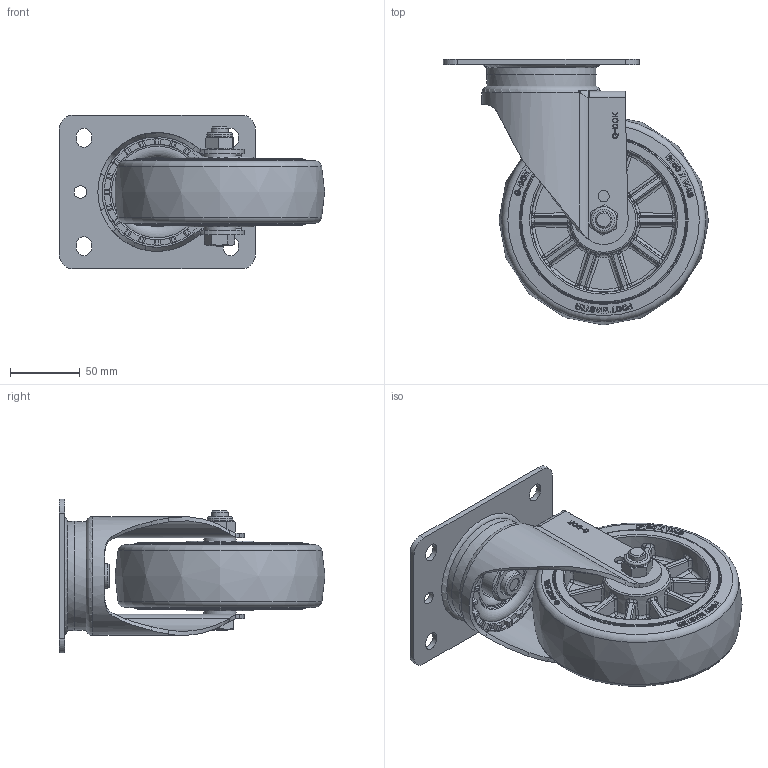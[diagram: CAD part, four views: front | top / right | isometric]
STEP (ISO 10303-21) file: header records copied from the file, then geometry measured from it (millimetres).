
FILE_DESCRIPTION(/* description */ (''),/* implementation_level */ '2;1');
FILE_NAME(/* name */ '\\192.168.10.38\지덕공유\1.기술연구소\2.연구개발 진행중\124.SPH-Series_중하중_2025.02.11\1.도면\2. 3D\홈페이지용\SPH-150-ASF-TUD&HRD-PEU.stp',/* time_stamp */ '2026-05-15T17:12:30+09:00',/* author */ ('admin'),/* organization */ ('지덕산업'),/* preprocessor_version */ 'ST-DEVELOPER v18.1',/* originating_system */ 'Autodesk Inventor 2021',/* authorisation */ '');
FILE_SCHEMA (('AUTOMOTIVE_DESIGN { 1 0 10303 214 3 1 1 }'));
Products named in the file (1): SPH-150-ASF-TUD&HRD-PEU
Bounding box: 189.5 x 190 x 110 mm (x, y, z)
Volume: 833661.9 mm3; surface area: 152776.1 mm2
Topology: 1 solids, 1 shells, 1694 faces, 4298 edges, 2702 vertices
Faces by surface type: plane 659, bspline 593, cylinder 218, sphere 80, cone 76, torus 68
Full cylindrical faces by diameter (mm): 8 x2, 9 x2, 10 x1, 12 x1, 18 x2, 18.5 x1, 31 x1, 31.177 x1
Entity records: 63110 total; most frequent: CARTESIAN_POINT 27266, ORIENTED_EDGE 8592, DIRECTION 5646, EDGE_CURVE 4296, VERTEX_POINT 2702, AXIS2_PLACEMENT_3D 1948, EDGE_LOOP 1810, LINE 1750
